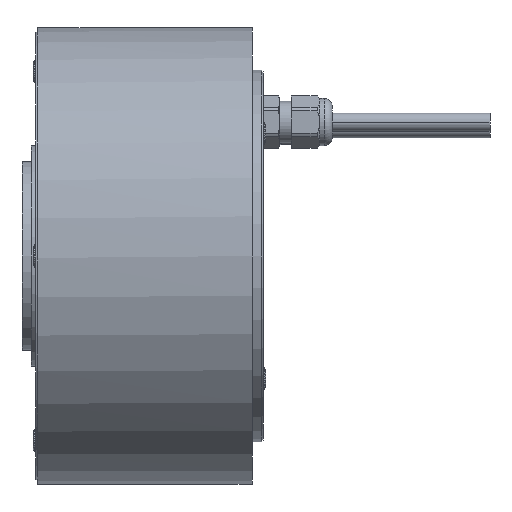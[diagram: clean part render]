
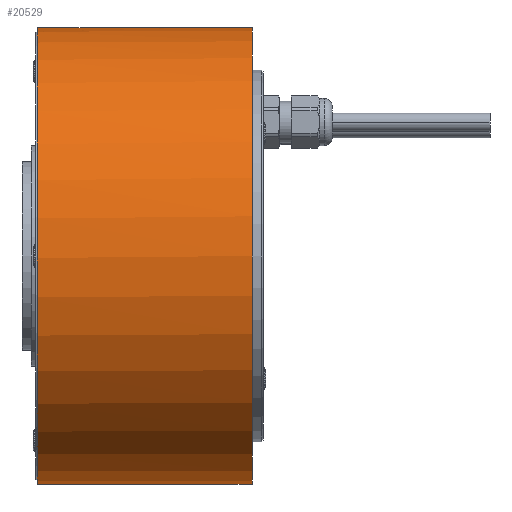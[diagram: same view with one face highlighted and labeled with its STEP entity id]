
A CAD part, left-side view. The second image highlights one B-rep face of the part: STEP entity #20529.
In plain terms, the highlighted cylindrical face has radius 72.5 mm (diameter 145 mm), a partial arc.
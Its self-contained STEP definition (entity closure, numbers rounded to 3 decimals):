
#66 = VECTOR ( 'NONE', #15677, 1000. ) ;
#217 = VERTEX_POINT ( 'NONE', #14440 ) ;
#408 = VERTEX_POINT ( 'NONE', #17431 ) ;
#462 = CARTESIAN_POINT ( 'NONE',  ( 0., -0.2, 72.5 ) ) ;
#580 = CARTESIAN_POINT ( 'NONE',  ( -0.443, -46.822, 72.499 ) ) ;
#704 = CARTESIAN_POINT ( 'NONE',  ( -1.706, -53.149, 72.48 ) ) ;
#902 = LINE ( 'NONE', #12118, #66 ) ;
#906 = CARTESIAN_POINT ( 'NONE',  ( -1.25, 0., 72.489 ) ) ;
#1023 = CARTESIAN_POINT ( 'NONE',  ( -2.705, -52.272, 72.45 ) ) ;
#1137 = LINE ( 'NONE', #10968, #8436 ) ;
#1280 = CIRCLE ( 'NONE', #1976, 72.5 ) ;
#1609 = DIRECTION ( 'NONE',  ( 0., 1., 0. ) ) ;
#1873 = CARTESIAN_POINT ( 'NONE',  ( 0., -0.2, 0. ) ) ;
#1976 = AXIS2_PLACEMENT_3D ( 'NONE', #2900, #4616, #4516 ) ;
#2256 = EDGE_CURVE ( 'NONE', #5185, #5818, #13245, .T. ) ;
#2323 = CARTESIAN_POINT ( 'NONE',  ( 0., -68.2, 72.5 ) ) ;
#2384 = CARTESIAN_POINT ( 'NONE',  ( 0., -71.2, -72.5 ) ) ;
#2525 = AXIS2_PLACEMENT_3D ( 'NONE', #16380, #1609, #14758 ) ;
#2652 = CARTESIAN_POINT ( 'NONE',  ( -2.562, -52.447, 72.455 ) ) ;
#2900 = CARTESIAN_POINT ( 'NONE',  ( 0., -68.2, 0. ) ) ;
#2920 = CARTESIAN_POINT ( 'NONE',  ( 0., -46.8, 72.5 ) ) ;
#2972 = AXIS2_PLACEMENT_3D ( 'NONE', #20449, #12358, #12039 ) ;
#3452 = VECTOR ( 'NONE', #10905, 1000. ) ;
#3739 = CARTESIAN_POINT ( 'NONE',  ( -3.4, -50.424, 72.42 ) ) ;
#4494 = DIRECTION ( 'NONE',  ( 0., 1., 0. ) ) ;
#4502 = B_SPLINE_CURVE_WITH_KNOTS ( 'NONE', 3,
 ( #18499, #3739, #10314, #16883, #9222, #10956, #8899, #1023, #2652, #15902, #14291, #704, #10846, #20443, #20763, #18923 ),
 .UNSPECIFIED., .F., .F.,
 ( 4, 2, 2, 2, 2, 2, 2, 4 ),
 ( 0.016, 0.017, 0.017, 0.018, 0.019, 0.019, 0.02, 0.021 ),
 .UNSPECIFIED. ) ;
#4516 = DIRECTION ( 'NONE',  ( 0., 0., -1. ) ) ;
#4616 = DIRECTION ( 'NONE',  ( 0., -1., 0. ) ) ;
#5185 = VERTEX_POINT ( 'NONE', #6504 ) ;
#5197 = CARTESIAN_POINT ( 'NONE',  ( -3.4, -50.2, 72.42 ) ) ;
#5262 = VERTEX_POINT ( 'NONE', #5197 ) ;
#5724 = EDGE_CURVE ( 'NONE', #11499, #12654, #13302, .T. ) ;
#5818 = VERTEX_POINT ( 'NONE', #462 ) ;
#5948 = LINE ( 'NONE', #7777, #3452 ) ;
#6504 = CARTESIAN_POINT ( 'NONE',  ( -1.25, -0.2, 72.489 ) ) ;
#6956 = CARTESIAN_POINT ( 'NONE',  ( 0., -68.2, -72.5 ) ) ;
#7163 = CARTESIAN_POINT ( 'NONE',  ( -1.703, -47.249, 72.48 ) ) ;
#7664 = EDGE_CURVE ( 'NONE', #5262, #408, #4502, .T. ) ;
#7754 = ORIENTED_EDGE ( 'NONE', *, *, #9923, .F. ) ;
#7777 = CARTESIAN_POINT ( 'NONE',  ( -1.25, -0.2, 72.489 ) ) ;
#7868 = B_SPLINE_CURVE_WITH_KNOTS ( 'NONE', 3,
 ( #2920, #16064, #580, #10396, #8764, #20819, #7163, #12510, #15747, #13726, #12111, #20717, #13041, #9813, #18001, #11540, #21242, #18114 ),
 .UNSPECIFIED., .F., .F.,
 ( 4, 2, 2, 2, 2, 2, 2, 2, 4 ),
 ( 0.011, 0.011, 0.012, 0.013, 0.013, 0.014, 0.015, 0.015, 0.016 ),
 .UNSPECIFIED. ) ;
#8155 = ORIENTED_EDGE ( 'NONE', *, *, #16249, .T. ) ;
#8436 = VECTOR ( 'NONE', #4494, 1000. ) ;
#8711 = VERTEX_POINT ( 'NONE', #2323 ) ;
#8764 = CARTESIAN_POINT ( 'NONE',  ( -1.096, -46.974, 72.492 ) ) ;
#8899 = CARTESIAN_POINT ( 'NONE',  ( -2.951, -51.902, 72.44 ) ) ;
#9222 = CARTESIAN_POINT ( 'NONE',  ( -3.226, -51.295, 72.428 ) ) ;
#9803 = FACE_OUTER_BOUND ( 'NONE', #10222, .T. ) ;
#9813 = CARTESIAN_POINT ( 'NONE',  ( -3.226, -49.104, 72.428 ) ) ;
#9923 = EDGE_CURVE ( 'NONE', #8711, #12469, #1280, .T. ) ;
#10222 = EDGE_LOOP ( 'NONE', ( #10226, #7754, #13435, #21261, #13017, #8155, #11714, #21122, #13163 ) ) ;
#10226 = ORIENTED_EDGE ( 'NONE', *, *, #11329, .F. ) ;
#10274 = EDGE_CURVE ( 'NONE', #5185, #12654, #5948, .T. ) ;
#10314 = CARTESIAN_POINT ( 'NONE',  ( -3.378, -50.646, 72.421 ) ) ;
#10396 = CARTESIAN_POINT ( 'NONE',  ( -0.881, -46.909, 72.495 ) ) ;
#10846 = CARTESIAN_POINT ( 'NONE',  ( -1.508, -53.255, 72.485 ) ) ;
#10905 = DIRECTION ( 'NONE',  ( 0., 1., 0. ) ) ;
#10956 = CARTESIAN_POINT ( 'NONE',  ( -3.056, -51.707, 72.436 ) ) ;
#10968 = CARTESIAN_POINT ( 'NONE',  ( 0., -71.2, 72.5 ) ) ;
#11329 = EDGE_CURVE ( 'NONE', #12469, #11499, #14032, .T. ) ;
#11499 = VERTEX_POINT ( 'NONE', #18007 ) ;
#11540 = CARTESIAN_POINT ( 'NONE',  ( -3.378, -49.755, 72.421 ) ) ;
#11640 = CYLINDRICAL_SURFACE ( 'NONE', #2525, 72.5 ) ;
#11714 = ORIENTED_EDGE ( 'NONE', *, *, #2256, .F. ) ;
#12039 = DIRECTION ( 'NONE',  ( 0., 0., 1. ) ) ;
#12089 = DIRECTION ( 'NONE',  ( 0., 1., 0. ) ) ;
#12111 = CARTESIAN_POINT ( 'NONE',  ( -2.704, -48.127, 72.45 ) ) ;
#12118 = CARTESIAN_POINT ( 'NONE',  ( 0., -71.2, 72.5 ) ) ;
#12358 = DIRECTION ( 'NONE',  ( 0., 1., 0. ) ) ;
#12469 = VERTEX_POINT ( 'NONE', #6956 ) ;
#12510 = CARTESIAN_POINT ( 'NONE',  ( -2.075, -47.498, 72.471 ) ) ;
#12654 = VERTEX_POINT ( 'NONE', #906 ) ;
#13017 = ORIENTED_EDGE ( 'NONE', *, *, #15157, .F. ) ;
#13041 = CARTESIAN_POINT ( 'NONE',  ( -3.055, -48.692, 72.436 ) ) ;
#13163 = ORIENTED_EDGE ( 'NONE', *, *, #5724, .F. ) ;
#13245 = CIRCLE ( 'NONE', #13942, 72.5 ) ;
#13302 = CIRCLE ( 'NONE', #2972, 72.5 ) ;
#13435 = ORIENTED_EDGE ( 'NONE', *, *, #18403, .T. ) ;
#13726 = CARTESIAN_POINT ( 'NONE',  ( -2.56, -47.952, 72.455 ) ) ;
#13942 = AXIS2_PLACEMENT_3D ( 'NONE', #1873, #16746, #18146 ) ;
#14032 = LINE ( 'NONE', #2384, #15880 ) ;
#14291 = CARTESIAN_POINT ( 'NONE',  ( -2.077, -52.901, 72.47 ) ) ;
#14440 = CARTESIAN_POINT ( 'NONE',  ( 0., -46.8, 72.5 ) ) ;
#14758 = DIRECTION ( 'NONE',  ( 0., 0., 1. ) ) ;
#15157 = EDGE_CURVE ( 'NONE', #217, #5262, #7868, .T. ) ;
#15677 = DIRECTION ( 'NONE',  ( 0., 1., 0. ) ) ;
#15747 = CARTESIAN_POINT ( 'NONE',  ( -2.247, -47.638, 72.465 ) ) ;
#15880 = VECTOR ( 'NONE', #12089, 1000. ) ;
#15902 = CARTESIAN_POINT ( 'NONE',  ( -2.248, -52.76, 72.465 ) ) ;
#16064 = CARTESIAN_POINT ( 'NONE',  ( -0.222, -46.8, 72.5 ) ) ;
#16249 = EDGE_CURVE ( 'NONE', #217, #5818, #902, .T. ) ;
#16380 = CARTESIAN_POINT ( 'NONE',  ( 0., -71.2, 0. ) ) ;
#16746 = DIRECTION ( 'NONE',  ( 0., 1., 0. ) ) ;
#16883 = CARTESIAN_POINT ( 'NONE',  ( -3.292, -51.08, 72.425 ) ) ;
#17431 = CARTESIAN_POINT ( 'NONE',  ( 0., -53.6, 72.5 ) ) ;
#18001 = CARTESIAN_POINT ( 'NONE',  ( -3.292, -49.32, 72.425 ) ) ;
#18007 = CARTESIAN_POINT ( 'NONE',  ( 0., 0., -72.5 ) ) ;
#18114 = CARTESIAN_POINT ( 'NONE',  ( -3.4, -50.2, 72.42 ) ) ;
#18146 = DIRECTION ( 'NONE',  ( 0., 0., 1. ) ) ;
#18403 = EDGE_CURVE ( 'NONE', #8711, #408, #1137, .T. ) ;
#18499 = CARTESIAN_POINT ( 'NONE',  ( -3.4, -50.2, 72.42 ) ) ;
#18923 = CARTESIAN_POINT ( 'NONE',  ( 0., -53.6, 72.5 ) ) ;
#20443 = CARTESIAN_POINT ( 'NONE',  ( -0.895, -53.51, 72.496 ) ) ;
#20449 = CARTESIAN_POINT ( 'NONE',  ( 0., 0., 0. ) ) ;
#20529 = ADVANCED_FACE ( 'NONE', ( #9803 ), #11640, .T. ) ;
#20717 = CARTESIAN_POINT ( 'NONE',  ( -2.951, -48.497, 72.44 ) ) ;
#20763 = CARTESIAN_POINT ( 'NONE',  ( -0.449, -53.6, 72.5 ) ) ;
#20819 = CARTESIAN_POINT ( 'NONE',  ( -1.505, -47.143, 72.485 ) ) ;
#21122 = ORIENTED_EDGE ( 'NONE', *, *, #10274, .T. ) ;
#21242 = CARTESIAN_POINT ( 'NONE',  ( -3.4, -49.976, 72.42 ) ) ;
#21261 = ORIENTED_EDGE ( 'NONE', *, *, #7664, .F. ) ;
